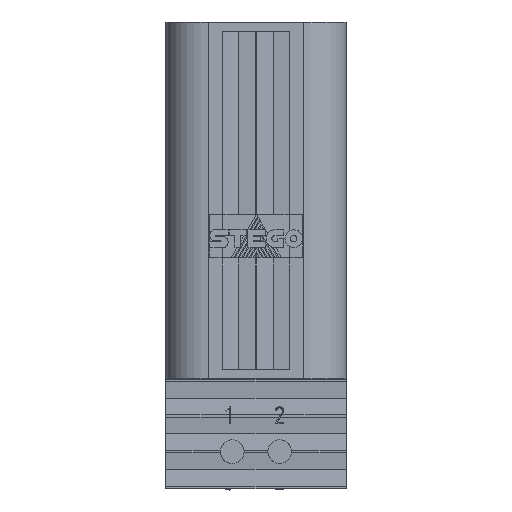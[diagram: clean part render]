
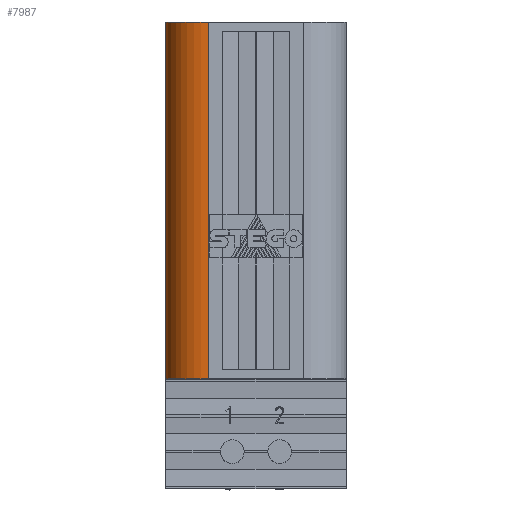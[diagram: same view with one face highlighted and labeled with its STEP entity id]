
A CAD part, top view. The second image highlights one B-rep face of the part: STEP entity #7987.
In plain terms, the highlighted cylindrical face has radius 9 mm (diameter 18 mm), a partial arc.
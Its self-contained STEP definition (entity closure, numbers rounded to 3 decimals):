
#89 = VERTEX_POINT ( 'NONE', #11926 ) ;
#1323 = CARTESIAN_POINT ( 'NONE',  ( 9., -22.5, 61. ) ) ;
#1423 = CARTESIAN_POINT ( 'NONE',  ( 9., 52.5, 61. ) ) ;
#2197 = LINE ( 'NONE', #16210, #17420 ) ;
#2382 = ORIENTED_EDGE ( 'NONE', *, *, #11075, .F. ) ;
#2879 = DIRECTION ( 'NONE',  ( 0., 0., -1. ) ) ;
#3574 = EDGE_CURVE ( 'NONE', #89, #15925, #9399, .T. ) ;
#4600 = FACE_OUTER_BOUND ( 'NONE', #16885, .T. ) ;
#5493 = EDGE_CURVE ( 'NONE', #15925, #8435, #2197, .T. ) ;
#6317 = AXIS2_PLACEMENT_3D ( 'NONE', #16230, #7362, #17710 ) ;
#6410 = ORIENTED_EDGE ( 'NONE', *, *, #12715, .F. ) ;
#6833 = VECTOR ( 'NONE', #9060, 1000. ) ;
#7362 = DIRECTION ( 'NONE',  ( 0., -1., 0. ) ) ;
#7400 = DIRECTION ( 'NONE',  ( 0., 1., 0. ) ) ;
#7610 = CARTESIAN_POINT ( 'NONE',  ( 0., 52.5, 61. ) ) ;
#7987 = ADVANCED_FACE ( 'NONE', ( #4600 ), #11527, .T. ) ;
#8435 = VERTEX_POINT ( 'NONE', #7610 ) ;
#8679 = DIRECTION ( 'NONE',  ( 0., 0., 1. ) ) ;
#8715 = CIRCLE ( 'NONE', #13149, 9. ) ;
#9060 = DIRECTION ( 'NONE',  ( 0., -1., 0. ) ) ;
#9270 = CARTESIAN_POINT ( 'NONE',  ( 9., 52.5, 70. ) ) ;
#9399 = CIRCLE ( 'NONE', #6317, 9. ) ;
#9580 = VERTEX_POINT ( 'NONE', #9270 ) ;
#10189 = AXIS2_PLACEMENT_3D ( 'NONE', #1323, #19062, #8679 ) ;
#11075 = EDGE_CURVE ( 'NONE', #9580, #89, #18161, .T. ) ;
#11097 = CARTESIAN_POINT ( 'NONE',  ( 0., -22.5, 61. ) ) ;
#11527 = CYLINDRICAL_SURFACE ( 'NONE', #10189, 9. ) ;
#11704 = DIRECTION ( 'NONE',  ( 0., 1., 0. ) ) ;
#11926 = CARTESIAN_POINT ( 'NONE',  ( 9., -22.5, 70. ) ) ;
#12715 = EDGE_CURVE ( 'NONE', #8435, #9580, #8715, .T. ) ;
#13149 = AXIS2_PLACEMENT_3D ( 'NONE', #1423, #11704, #2879 ) ;
#14684 = ORIENTED_EDGE ( 'NONE', *, *, #5493, .F. ) ;
#15001 = CARTESIAN_POINT ( 'NONE',  ( 9., -22.5, 70. ) ) ;
#15925 = VERTEX_POINT ( 'NONE', #11097 ) ;
#16210 = CARTESIAN_POINT ( 'NONE',  ( 0., 52.5, 61. ) ) ;
#16230 = CARTESIAN_POINT ( 'NONE',  ( 9., -22.5, 61. ) ) ;
#16885 = EDGE_LOOP ( 'NONE', ( #2382, #6410, #14684, #17273 ) ) ;
#17273 = ORIENTED_EDGE ( 'NONE', *, *, #3574, .F. ) ;
#17420 = VECTOR ( 'NONE', #7400, 1000. ) ;
#17710 = DIRECTION ( 'NONE',  ( 0., 0., 1. ) ) ;
#18161 = LINE ( 'NONE', #15001, #6833 ) ;
#19062 = DIRECTION ( 'NONE',  ( 0., 1., 0. ) ) ;
